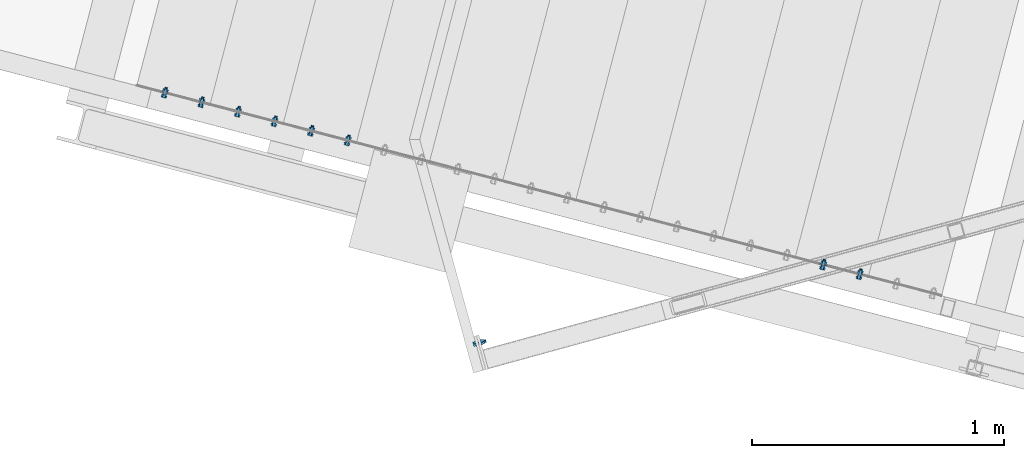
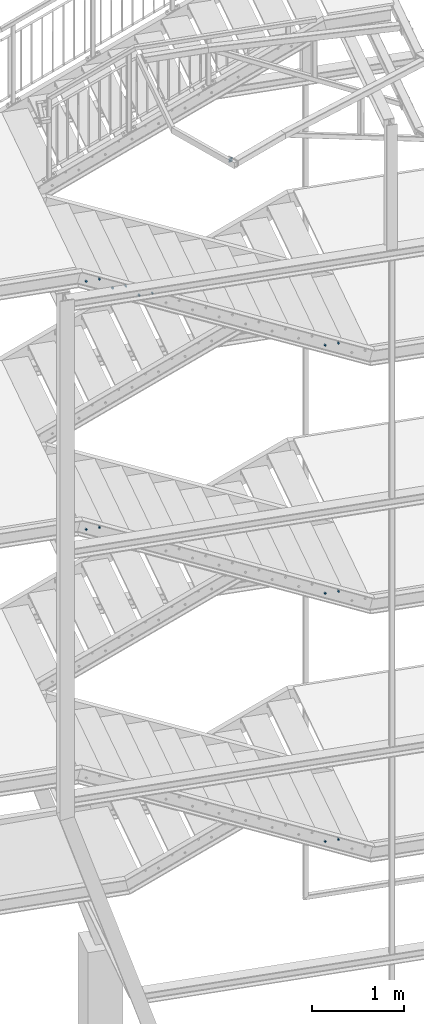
# One storey, part 134 of 169: 15 mechanical fasteners, 8 elements without a shape of their own.
"""IFC2X3 building model written with IfcOpenShell, lengths in millimetres."""

from ifc_helpers import new_model, si_unit, frame, frame_2d, origin_with_axes, origin_2d_with_axis, place, context, subcontext, project, spatial, polyline, circle_curve, parameter, trimmed, segment, composite_curve, circle, outline, extrude, source, transform, mapped, material, type_object, element, aggregate, save


model = new_model("IFC2X3")

# Units and contexts
model_context = context("Model", 3, precision=1e-05, world=origin_with_axes())
body_context = subcontext(model_context, "Body", "Model", "MODEL_VIEW")
ifc_project = project(units=[si_unit("LENGTHUNIT", "METRE", prefix="MILLI"), si_unit("AREAUNIT", "SQUARE_METRE"), si_unit("VOLUMEUNIT", "CUBIC_METRE"), si_unit("MASSUNIT", "GRAM", prefix="KILO"), si_unit("TIMEUNIT", "SECOND"), si_unit("PLANEANGLEUNIT", "RADIAN"), si_unit("SOLIDANGLEUNIT", "STERADIAN"), si_unit("THERMODYNAMICTEMPERATUREUNIT", "DEGREE_CELSIUS"), si_unit("LUMINOUSINTENSITYUNIT", "LUMEN")], contexts=[model_context])

# Site, building, storey
site_placement = place(None, origin_with_axes())
site = spatial("IfcSite", under=ifc_project, at=site_placement, Name="Undefined", CompositionType="ELEMENT")
building_placement = place(site_placement, origin_with_axes())
building = spatial("IfcBuilding", under=site, at=building_placement, Name="Undefined", CompositionType="ELEMENT")
storey_placement = place(building_placement, origin_with_axes())
storey = spatial("IfcBuildingStorey", under=building, at=storey_placement, Name="Undefined", CompositionType="ELEMENT", Elevation=0.0)

# Assembly, mechanical fastener
assembly_1_placement = place(storey_placement, origin_with_axes())
assembly_1 = element("IfcElementAssembly", 1, at=assembly_1_placement, inside=storey, Name="Steel Assembly", AssemblyPlace="NOTDEFINED", PredefinedType="RIGID_FRAME")
ifc_material = material(Name="Undefined")
discrete_accessory_type = type_object("IfcDiscreteAccessoryType", Name="Bolt assembly")
shared_shape_1 = source(origin_with_axes(), body_context, "Body", "SweptSolid", [
    extrude(circle(Radius=7.5, at=origin_2d_with_axis()), frame((0.0, -10.3999999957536, 0.0), z_axis=(0.0, 1.0, 0.0), x_axis=(1.0, 0.0, 0.0)), (0.0, 0.0, 1.0), 10.0),
    extrude(outline(composite_curve([segment(polyline([(7.5, 7.5), (7.5, -7.5)]), True, "CONTINUOUS"), segment(trimmed(circle_curve(frame_2d((0.0, -7.5), x_axis=(1.0, 0.0)), 7.5), [parameter(0.0)], [parameter(3.14159265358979)], False, "PARAMETER"), True, "CONTINUOUS"), segment(polyline([(-7.5, -7.5), (-7.5, 7.5)]), True, "CONTINUOUS"), segment(trimmed(circle_curve(frame_2d((0.0, 7.5), x_axis=(-1.0, 0.0)), 7.5), [parameter(0.0)], [parameter(3.14159265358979)], False, "PARAMETER"), True, "DISCONTINUOUS")], self_intersect=False)), frame((0.0, 0.400000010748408, 0.0), z_axis=(0.0, 1.0, 0.0), x_axis=(1.0, 0.0, 0.0)), (0.0, 0.0, 1.0), 10.1),
    extrude(outline(polyline([(10.39230484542, 0.0), (5.19615242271, 9.00000000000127), (-5.19615242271, 9.00000000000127), (-10.39230484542, 0.0), (-5.19615242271, -9.00000000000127), (5.19615242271, -9.00000000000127), (10.39230484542, 0.0)])), frame((0.0, -20.9999999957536, 0.0), z_axis=(0.0, 1.0, 0.0), x_axis=(1.0, 0.0, 0.0)), (0.0, 0.0, 1.0), 7.5),
    extrude(circle(Radius=6.0, at=origin_2d_with_axis()), frame((0.0, -13.4999999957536, 0.0), z_axis=(0.0, 1.0, 0.0), x_axis=(1.0, 0.0, 0.0)), (0.0, 0.0, 1.0), 45.0),
    extrude(circle(Radius=12.0, at=origin_2d_with_axis()), frame((0.0, -13.4999999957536, 0.0), z_axis=(0.0, 1.0, 0.0), x_axis=(1.0, 0.0, 0.0)), (0.0, 0.0, 1.0), 3.0),
    extrude(circle(Radius=12.0, at=origin_2d_with_axis()), frame((0.0, 10.500000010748, 0.0), z_axis=(0.0, 1.0, 0.0), x_axis=(1.0, 0.0, 0.0)), (0.0, 0.0, 1.0), 3.0),
    extrude(outline(polyline([(10.96965511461, 0.0), (5.484827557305, 9.50000000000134), (-5.484827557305, 9.50000000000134), (-10.96965511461, 0.0), (-5.484827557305, -9.50000000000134), (5.484827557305, -9.50000000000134), (10.96965511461, 0.0)])), frame((0.0, 13.500000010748, 0.0), z_axis=(0.0, 1.0, 0.0), x_axis=(1.0, 0.0, 0.0)), (0.0, 0.0, 1.0), 10.0),
])
mechanical_fastener_1_placement = place(assembly_1_placement, frame((-26962.3013303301, 4725.25174262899, 13989.24466622), z_axis=(0.265007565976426, -0.964246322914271, -0.000136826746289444), x_axis=(1.20319999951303e-05, 0.000145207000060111, -0.999999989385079)))
mechanical_fastener_1 = element("IfcMechanicalFastener", 2, at=mechanical_fastener_1_placement, type_object=discrete_accessory_type, material=ifc_material, Name="Bolt assembly", NominalDiameter=12.0, NominalLength=45.0, context=body_context, shape_type="MappedRepresentation", body=[
    mapped(shared_shape_1, transform((24.999999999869, -2.5465851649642e-11, -69.9999999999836))),
    mapped(shared_shape_1, transform((54.9999999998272, -5.82076609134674e-11, -70.0000000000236))),
])
aggregate(assembly_1, [mechanical_fastener_1])

assembly_2_placement = place(storey_placement, origin_with_axes())
assembly_2 = element("IfcElementAssembly", 3, at=assembly_2_placement, inside=storey, Name="Steel Assembly", AssemblyPlace="NOTDEFINED", PredefinedType="RIGID_FRAME")
shared_shape_2 = source(origin_with_axes(), body_context, "Body", "SweptSolid", [
    extrude(circle(Radius=7.5, at=origin_2d_with_axis()), frame((0.0, -8.39999975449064, 0.0), z_axis=(0.0, 1.0, 0.0), x_axis=(1.0, 0.0, 0.0)), (0.0, 0.0, 1.0), 8.5),
    extrude(circle(Radius=7.5, at=origin_2d_with_axis()), frame((0.0, -0.100000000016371, 0.0), z_axis=(0.0, 1.0, 0.0), x_axis=(1.0, 0.0, 0.0)), (0.0, 0.0, 1.0), 3.1),
    extrude(outline(polyline([(10.39230484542, 0.0), (5.19615242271, 9.00000000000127), (-5.19615242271, 9.00000000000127), (-10.39230484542, 0.0), (-5.19615242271, -9.00000000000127), (5.19615242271, -9.00000000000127), (10.39230484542, 0.0)])), frame((0.0, -18.4999993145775, 0.0), z_axis=(0.0, 1.0, 0.0), x_axis=(1.0, 0.0, 0.0)), (0.0, 0.0, 1.0), 7.5),
    extrude(circle(Radius=6.0, at=origin_2d_with_axis()), frame((0.0, -10.9999999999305, 0.0), z_axis=(0.0, 1.0, 0.0), x_axis=(1.0, 0.0, 0.0)), (0.0, 0.0, 1.0), 35.0),
    extrude(circle(Radius=12.0, at=origin_2d_with_axis()), frame((0.0, -10.9999999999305, 0.0), z_axis=(0.0, 1.0, 0.0), x_axis=(1.0, 0.0, 0.0)), (0.0, 0.0, 1.0), 2.5),
    extrude(circle(Radius=12.0, at=origin_2d_with_axis()), frame((0.0, 2.99999999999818, 0.0), z_axis=(0.0, 1.0, 0.0), x_axis=(1.0, 0.0, 0.0)), (0.0, 0.0, 1.0), 2.5),
    extrude(outline(polyline([(10.96965511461, 0.0), (5.484827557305, 9.50000000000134), (-5.484827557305, 9.50000000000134), (-10.96965511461, 0.0), (-5.484827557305, -9.50000000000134), (5.484827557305, -9.50000000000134), (10.96965511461, 0.0)])), frame((0.0, 5.50000000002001, 0.0), z_axis=(0.0, 1.0, 0.0), x_axis=(1.0, 0.0, 0.0)), (0.0, 0.0, 1.0), 10.0),
])
mechanical_fastener_2_placement = place(assembly_2_placement, frame((-28046.1007419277, 5737.63385308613, 12200.3215824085), z_axis=(-2.54700353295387e-10, 0.0, -1.0), x_axis=(-0.967546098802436, 0.252694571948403, 0.0)))
mechanical_fastener_2 = element("IfcMechanicalFastener", 4, at=mechanical_fastener_2_placement, type_object=discrete_accessory_type, material=ifc_material, Name="Bolt assembly", NominalDiameter=12.0, NominalLength=35.0, context=body_context, shape_type="MappedRepresentation", body=[
    mapped(shared_shape_2, transform((35.0000000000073, -1.23691279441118e-10, 25.0))),
])

assembly_3_placement = place(storey_placement, origin_with_axes())
assembly_3 = element("IfcElementAssembly", 5, at=assembly_3_placement, inside=storey, Name="Steel Assembly", AssemblyPlace="NOTDEFINED", PredefinedType="RIGID_FRAME")
mechanical_fastener_3_placement = place(assembly_3_placement, frame((-27755.8369088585, 5661.82548073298, 12050.3215824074), z_axis=(-2.54700353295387e-10, 0.0, -1.0), x_axis=(-0.967546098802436, 0.252694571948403, 0.0)))
mechanical_fastener_3 = element("IfcMechanicalFastener", 6, at=mechanical_fastener_3_placement, type_object=discrete_accessory_type, material=ifc_material, Name="Bolt assembly", NominalDiameter=12.0, NominalLength=35.0, context=body_context, shape_type="MappedRepresentation", body=[
    mapped(shared_shape_2, transform((35.0000000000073, -1.23691279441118e-10, 25.0))),
])

assembly_4_placement = place(storey_placement, origin_with_axes())
assembly_4 = element("IfcElementAssembly", 7, at=assembly_4_placement, inside=storey, Name="Steel Assembly", AssemblyPlace="NOTDEFINED", PredefinedType="RIGID_FRAME")
mechanical_fastener_4_placement = place(assembly_4_placement, frame((-27465.5730757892, 5586.01710837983, 11900.3215824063), z_axis=(-2.54700353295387e-10, 0.0, -1.0), x_axis=(-0.967546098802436, 0.252694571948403, 0.0)))
mechanical_fastener_4 = element("IfcMechanicalFastener", 8, at=mechanical_fastener_4_placement, type_object=discrete_accessory_type, material=ifc_material, Name="Bolt assembly", NominalDiameter=12.0, NominalLength=35.0, context=body_context, shape_type="MappedRepresentation", body=[
    mapped(shared_shape_2, transform((35.0000000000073, -1.23691279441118e-10, 25.0))),
])

assembly_5_placement = place(storey_placement, origin_with_axes())
assembly_5 = element("IfcElementAssembly", 9, at=assembly_5_placement, inside=storey, Name="Steel Assembly", AssemblyPlace="NOTDEFINED", PredefinedType="RIGID_FRAME")
mechanical_fastener_5_placement = place(assembly_5_placement, frame((-25433.7262443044, 5055.3585019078, 10850.3215823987), z_axis=(-2.54700353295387e-10, 0.0, -1.0), x_axis=(-0.967546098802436, 0.252694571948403, 0.0)))
mechanical_fastener_5 = element("IfcMechanicalFastener", 10, at=mechanical_fastener_5_placement, type_object=discrete_accessory_type, material=ifc_material, Name="Bolt assembly", NominalDiameter=12.0, NominalLength=35.0, context=body_context, shape_type="MappedRepresentation", body=[
    mapped(shared_shape_2, transform((35.0000000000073, -1.23691279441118e-10, 25.0))),
])

assembly_6_placement = place(storey_placement, origin_with_axes())
assembly_6 = element("IfcElementAssembly", 11, at=assembly_6_placement, inside=storey, Name="Steel Assembly", AssemblyPlace="NOTDEFINED", PredefinedType="RIGID_FRAME")
mechanical_fastener_6_placement = place(assembly_6_placement, frame((-28046.2148193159, 5737.19693810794, 8900.3216133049), z_axis=(-2.54700353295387e-10, 0.0, -1.0), x_axis=(-0.967546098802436, 0.252694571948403, 0.0)))
mechanical_fastener_6 = element("IfcMechanicalFastener", 12, at=mechanical_fastener_6_placement, type_object=discrete_accessory_type, material=ifc_material, Name="Bolt assembly", NominalDiameter=12.0, NominalLength=35.0, context=body_context, shape_type="MappedRepresentation", body=[
    mapped(shared_shape_2, transform((35.0000000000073, -1.23691279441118e-10, 25.0))),
])

assembly_7_placement = place(storey_placement, origin_with_axes())
assembly_7 = element("IfcElementAssembly", 13, at=assembly_7_placement, inside=storey, Name="Steel Assembly", AssemblyPlace="NOTDEFINED", PredefinedType="RIGID_FRAME")
mechanical_fastener_7_placement = place(assembly_7_placement, frame((-25433.8403216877, 5054.92158693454, 7550.32161330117), z_axis=(-2.54700353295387e-10, 0.0, -1.0), x_axis=(-0.967546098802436, 0.252694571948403, 0.0)))
mechanical_fastener_7 = element("IfcMechanicalFastener", 14, at=mechanical_fastener_7_placement, type_object=discrete_accessory_type, material=ifc_material, Name="Bolt assembly", NominalDiameter=12.0, NominalLength=35.0, context=body_context, shape_type="MappedRepresentation", body=[
    mapped(shared_shape_2, transform((35.0000000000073, -1.23691279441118e-10, 25.0))),
])

assembly_8_placement = place(storey_placement, origin_with_axes())
assembly_8 = element("IfcElementAssembly", 15, at=assembly_8_placement, inside=storey, Name="Steel Assembly", AssemblyPlace="NOTDEFINED", PredefinedType="RIGID_FRAME")
mechanical_fastener_8_placement = place(assembly_8_placement, frame((-25433.9543991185, 5054.48467201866, 4250.32164420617), z_axis=(-2.54700353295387e-10, 0.0, -1.0), x_axis=(-0.967546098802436, 0.252694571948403, 0.0)))
mechanical_fastener_8 = element("IfcMechanicalFastener", 16, at=mechanical_fastener_8_placement, type_object=discrete_accessory_type, material=ifc_material, Name="Bolt assembly", NominalDiameter=12.0, NominalLength=35.0, context=body_context, shape_type="MappedRepresentation", body=[
    mapped(shared_shape_2, transform((35.0000000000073, -1.23691279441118e-10, 25.0))),
])

# Mechanical fastener
shared_shape_3 = source(origin_with_axes(), body_context, "Body", "SweptSolid", [
    extrude(circle(Radius=7.5, at=origin_2d_with_axis()), frame((0.0, -8.39999975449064, 0.0), z_axis=(0.0, 1.0, 0.0), x_axis=(1.0, 0.0, 0.0)), (0.0, 0.0, 1.0), 8.5),
    extrude(outline(composite_curve([segment(polyline([(-10.0, 7.5), (10.0, 7.5)]), True, "CONTINUOUS"), segment(trimmed(circle_curve(frame_2d((10.0, 0.0), x_axis=(0.0, 1.0)), 7.5), [parameter(0.0)], [parameter(3.14159265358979)], False, "PARAMETER"), True, "CONTINUOUS"), segment(polyline([(10.0, -7.5), (-10.0, -7.5)]), True, "CONTINUOUS"), segment(trimmed(circle_curve(frame_2d((-10.0, 0.0), x_axis=(0.0, -1.0)), 7.5), [parameter(0.0)], [parameter(3.14159265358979)], False, "PARAMETER"), True, "DISCONTINUOUS")], self_intersect=False)), frame((0.0, -0.100000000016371, 0.0), z_axis=(0.0, 1.0, 0.0), x_axis=(1.0, 0.0, 0.0)), (0.0, 0.0, 1.0), 3.1),
    extrude(outline(polyline([(10.39230484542, 0.0), (5.19615242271, 9.00000000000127), (-5.19615242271, 9.00000000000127), (-10.39230484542, 0.0), (-5.19615242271, -9.00000000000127), (5.19615242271, -9.00000000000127), (10.39230484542, 0.0)])), frame((0.0, -18.4999993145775, 0.0), z_axis=(0.0, 1.0, 0.0), x_axis=(1.0, 0.0, 0.0)), (0.0, 0.0, 1.0), 7.5),
    extrude(circle(Radius=6.0, at=origin_2d_with_axis()), frame((0.0, -10.9999999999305, 0.0), z_axis=(0.0, 1.0, 0.0), x_axis=(1.0, 0.0, 0.0)), (0.0, 0.0, 1.0), 35.0),
    extrude(circle(Radius=12.0, at=origin_2d_with_axis()), frame((0.0, -10.9999999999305, 0.0), z_axis=(0.0, 1.0, 0.0), x_axis=(1.0, 0.0, 0.0)), (0.0, 0.0, 1.0), 2.5),
    extrude(circle(Radius=12.0, at=origin_2d_with_axis()), frame((0.0, 2.99999999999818, 0.0), z_axis=(0.0, 1.0, 0.0), x_axis=(1.0, 0.0, 0.0)), (0.0, 0.0, 1.0), 2.5),
    extrude(outline(polyline([(10.96965511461, 0.0), (5.484827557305, 9.50000000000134), (-5.484827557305, 9.50000000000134), (-10.96965511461, 0.0), (-5.484827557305, -9.50000000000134), (5.484827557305, -9.50000000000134), (10.96965511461, 0.0)])), frame((0.0, 5.50000000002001, 0.0), z_axis=(0.0, 1.0, 0.0), x_axis=(1.0, 0.0, 0.0)), (0.0, 0.0, 1.0), 10.0),
])
mechanical_fastener_9_placement = place(assembly_2_placement, frame((-28046.1007419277, 5737.63385308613, 12200.3215824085), z_axis=(-2.54700353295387e-10, 0.0, -1.0), x_axis=(-0.967546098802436, 0.252694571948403, 0.0)))
mechanical_fastener_9 = element("IfcMechanicalFastener", 17, at=mechanical_fastener_9_placement, type_object=discrete_accessory_type, material=ifc_material, Name="Bolt assembly", NominalDiameter=12.0, NominalLength=35.0, context=body_context, shape_type="MappedRepresentation", body=[
    mapped(shared_shape_3, transform((185.00000000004, -6.51198206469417e-10, 25.0))),
])

aggregate(assembly_2, [mechanical_fastener_9, mechanical_fastener_2])

shared_shape_4 = source(origin_with_axes(), body_context, "Body", "SweptSolid", [
    extrude(circle(Radius=7.5, at=origin_2d_with_axis()), frame((0.0, -8.39999975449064, 0.0), z_axis=(0.0, 1.0, 0.0), x_axis=(1.0, 0.0, 0.0)), (0.0, 0.0, 1.0), 8.5),
    extrude(outline(composite_curve([segment(polyline([(-10.0, 7.5), (10.0, 7.5)]), True, "CONTINUOUS"), segment(trimmed(circle_curve(frame_2d((10.0, 0.0), x_axis=(0.0, 1.0)), 7.5), [parameter(0.0)], [parameter(3.14159265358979)], False, "PARAMETER"), True, "CONTINUOUS"), segment(polyline([(10.0, -7.5), (-10.0, -7.5)]), True, "CONTINUOUS"), segment(trimmed(circle_curve(frame_2d((-10.0, 0.0), x_axis=(0.0, -1.0)), 7.5), [parameter(0.0)], [parameter(3.14159265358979)], False, "PARAMETER"), True, "DISCONTINUOUS")], self_intersect=False)), frame((0.0, -0.100000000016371, 0.0), z_axis=(0.0, 1.0, 0.0), x_axis=(1.0, 0.0, 0.0)), (0.0, 0.0, 1.0), 3.1),
    extrude(outline(polyline([(10.39230484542, 0.0), (5.19615242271, 9.00000000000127), (-5.19615242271, 9.00000000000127), (-10.39230484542, 0.0), (-5.19615242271, -9.00000000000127), (5.19615242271, -9.00000000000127), (10.39230484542, 0.0)])), frame((0.0, -18.4999993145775, 0.0), z_axis=(0.0, 1.0, 0.0), x_axis=(1.0, 0.0, 0.0)), (0.0, 0.0, 1.0), 7.5),
    extrude(circle(Radius=6.0, at=origin_2d_with_axis()), frame((0.0, -10.9999999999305, 0.0), z_axis=(0.0, 1.0, 0.0), x_axis=(1.0, 0.0, 0.0)), (0.0, 0.0, 1.0), 35.0),
    extrude(circle(Radius=12.0, at=origin_2d_with_axis()), frame((0.0, -10.9999999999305, 0.0), z_axis=(0.0, 1.0, 0.0), x_axis=(1.0, 0.0, 0.0)), (0.0, 0.0, 1.0), 2.5),
    extrude(circle(Radius=12.0, at=origin_2d_with_axis()), frame((0.0, 2.99999999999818, 0.0), z_axis=(0.0, 1.0, 0.0), x_axis=(1.0, 0.0, 0.0)), (0.0, 0.0, 1.0), 2.5),
    extrude(outline(polyline([(10.96965511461, 0.0), (5.484827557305, 9.50000000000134), (-5.484827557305, 9.50000000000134), (-10.96965511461, 0.0), (-5.484827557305, -9.50000000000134), (5.484827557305, -9.50000000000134), (10.96965511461, 0.0)])), frame((0.0, 5.50000000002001, 0.0), z_axis=(0.0, 1.0, 0.0), x_axis=(1.0, 0.0, 0.0)), (0.0, 0.0, 1.0), 10.0),
])
mechanical_fastener_10_placement = place(assembly_3_placement, frame((-27755.8369088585, 5661.82548073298, 12050.3215824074), z_axis=(-2.54700353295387e-10, 0.0, -1.0), x_axis=(-0.967546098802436, 0.252694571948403, 0.0)))
mechanical_fastener_10 = element("IfcMechanicalFastener", 18, at=mechanical_fastener_10_placement, type_object=discrete_accessory_type, material=ifc_material, Name="Bolt assembly", NominalDiameter=12.0, NominalLength=35.0, context=body_context, shape_type="MappedRepresentation", body=[
    mapped(shared_shape_4, transform((185.00000000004, -6.51198206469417e-10, 25.0))),
])

aggregate(assembly_3, [mechanical_fastener_10, mechanical_fastener_3])

shared_shape_5 = source(origin_with_axes(), body_context, "Body", "SweptSolid", [
    extrude(circle(Radius=7.5, at=origin_2d_with_axis()), frame((0.0, -8.39999975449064, 0.0), z_axis=(0.0, 1.0, 0.0), x_axis=(1.0, 0.0, 0.0)), (0.0, 0.0, 1.0), 8.5),
    extrude(outline(composite_curve([segment(polyline([(-10.0, 7.5), (10.0, 7.5)]), True, "CONTINUOUS"), segment(trimmed(circle_curve(frame_2d((10.0, 0.0), x_axis=(0.0, 1.0)), 7.5), [parameter(0.0)], [parameter(3.14159265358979)], False, "PARAMETER"), True, "CONTINUOUS"), segment(polyline([(10.0, -7.5), (-10.0, -7.5)]), True, "CONTINUOUS"), segment(trimmed(circle_curve(frame_2d((-10.0, 0.0), x_axis=(0.0, -1.0)), 7.5), [parameter(0.0)], [parameter(3.14159265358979)], False, "PARAMETER"), True, "DISCONTINUOUS")], self_intersect=False)), frame((0.0, -0.100000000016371, 0.0), z_axis=(0.0, 1.0, 0.0), x_axis=(1.0, 0.0, 0.0)), (0.0, 0.0, 1.0), 3.1),
    extrude(outline(polyline([(10.39230484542, 0.0), (5.19615242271, 9.00000000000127), (-5.19615242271, 9.00000000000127), (-10.39230484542, 0.0), (-5.19615242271, -9.00000000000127), (5.19615242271, -9.00000000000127), (10.39230484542, 0.0)])), frame((0.0, -18.4999993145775, 0.0), z_axis=(0.0, 1.0, 0.0), x_axis=(1.0, 0.0, 0.0)), (0.0, 0.0, 1.0), 7.5),
    extrude(circle(Radius=6.0, at=origin_2d_with_axis()), frame((0.0, -10.9999999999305, 0.0), z_axis=(0.0, 1.0, 0.0), x_axis=(1.0, 0.0, 0.0)), (0.0, 0.0, 1.0), 35.0),
    extrude(circle(Radius=12.0, at=origin_2d_with_axis()), frame((0.0, -10.9999999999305, 0.0), z_axis=(0.0, 1.0, 0.0), x_axis=(1.0, 0.0, 0.0)), (0.0, 0.0, 1.0), 2.5),
    extrude(circle(Radius=12.0, at=origin_2d_with_axis()), frame((0.0, 2.99999999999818, 0.0), z_axis=(0.0, 1.0, 0.0), x_axis=(1.0, 0.0, 0.0)), (0.0, 0.0, 1.0), 2.5),
    extrude(outline(polyline([(10.96965511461, 0.0), (5.484827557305, 9.50000000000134), (-5.484827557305, 9.50000000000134), (-10.96965511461, 0.0), (-5.484827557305, -9.50000000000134), (5.484827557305, -9.50000000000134), (10.96965511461, 0.0)])), frame((0.0, 5.50000000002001, 0.0), z_axis=(0.0, 1.0, 0.0), x_axis=(1.0, 0.0, 0.0)), (0.0, 0.0, 1.0), 10.0),
])
mechanical_fastener_11_placement = place(assembly_4_placement, frame((-27465.5730757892, 5586.01710837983, 11900.3215824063), z_axis=(-2.54700353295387e-10, 0.0, -1.0), x_axis=(-0.967546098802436, 0.252694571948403, 0.0)))
mechanical_fastener_11 = element("IfcMechanicalFastener", 19, at=mechanical_fastener_11_placement, type_object=discrete_accessory_type, material=ifc_material, Name="Bolt assembly", NominalDiameter=12.0, NominalLength=35.0, context=body_context, shape_type="MappedRepresentation", body=[
    mapped(shared_shape_5, transform((185.00000000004, -6.51198206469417e-10, 25.0))),
])

aggregate(assembly_4, [mechanical_fastener_11, mechanical_fastener_4])

shared_shape_6 = source(origin_with_axes(), body_context, "Body", "SweptSolid", [
    extrude(circle(Radius=7.5, at=origin_2d_with_axis()), frame((0.0, -8.39999975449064, 0.0), z_axis=(0.0, 1.0, 0.0), x_axis=(1.0, 0.0, 0.0)), (0.0, 0.0, 1.0), 8.5),
    extrude(outline(composite_curve([segment(polyline([(-10.0, 7.5), (10.0, 7.5)]), True, "CONTINUOUS"), segment(trimmed(circle_curve(frame_2d((10.0, 0.0), x_axis=(0.0, 1.0)), 7.5), [parameter(0.0)], [parameter(3.14159265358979)], False, "PARAMETER"), True, "CONTINUOUS"), segment(polyline([(10.0, -7.5), (-10.0, -7.5)]), True, "CONTINUOUS"), segment(trimmed(circle_curve(frame_2d((-10.0, 0.0), x_axis=(0.0, -1.0)), 7.5), [parameter(0.0)], [parameter(3.14159265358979)], False, "PARAMETER"), True, "DISCONTINUOUS")], self_intersect=False)), frame((0.0, -0.100000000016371, 0.0), z_axis=(0.0, 1.0, 0.0), x_axis=(1.0, 0.0, 0.0)), (0.0, 0.0, 1.0), 3.1),
    extrude(outline(polyline([(10.39230484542, 0.0), (5.19615242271, 9.00000000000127), (-5.19615242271, 9.00000000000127), (-10.39230484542, 0.0), (-5.19615242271, -9.00000000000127), (5.19615242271, -9.00000000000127), (10.39230484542, 0.0)])), frame((0.0, -18.4999993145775, 0.0), z_axis=(0.0, 1.0, 0.0), x_axis=(1.0, 0.0, 0.0)), (0.0, 0.0, 1.0), 7.5),
    extrude(circle(Radius=6.0, at=origin_2d_with_axis()), frame((0.0, -10.9999999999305, 0.0), z_axis=(0.0, 1.0, 0.0), x_axis=(1.0, 0.0, 0.0)), (0.0, 0.0, 1.0), 35.0),
    extrude(circle(Radius=12.0, at=origin_2d_with_axis()), frame((0.0, -10.9999999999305, 0.0), z_axis=(0.0, 1.0, 0.0), x_axis=(1.0, 0.0, 0.0)), (0.0, 0.0, 1.0), 2.5),
    extrude(circle(Radius=12.0, at=origin_2d_with_axis()), frame((0.0, 2.99999999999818, 0.0), z_axis=(0.0, 1.0, 0.0), x_axis=(1.0, 0.0, 0.0)), (0.0, 0.0, 1.0), 2.5),
    extrude(outline(polyline([(10.96965511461, 0.0), (5.484827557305, 9.50000000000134), (-5.484827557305, 9.50000000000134), (-10.96965511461, 0.0), (-5.484827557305, -9.50000000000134), (5.484827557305, -9.50000000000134), (10.96965511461, 0.0)])), frame((0.0, 5.50000000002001, 0.0), z_axis=(0.0, 1.0, 0.0), x_axis=(1.0, 0.0, 0.0)), (0.0, 0.0, 1.0), 10.0),
])
mechanical_fastener_12_placement = place(assembly_5_placement, frame((-25433.7262443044, 5055.3585019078, 10850.3215823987), z_axis=(-2.54700353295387e-10, 0.0, -1.0), x_axis=(-0.967546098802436, 0.252694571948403, 0.0)))
mechanical_fastener_12 = element("IfcMechanicalFastener", 20, at=mechanical_fastener_12_placement, type_object=discrete_accessory_type, material=ifc_material, Name="Bolt assembly", NominalDiameter=12.0, NominalLength=35.0, context=body_context, shape_type="MappedRepresentation", body=[
    mapped(shared_shape_6, transform((185.00000000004, -6.51198206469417e-10, 25.0))),
])

aggregate(assembly_5, [mechanical_fastener_12, mechanical_fastener_5])

shared_shape_7 = source(origin_with_axes(), body_context, "Body", "SweptSolid", [
    extrude(circle(Radius=7.5, at=origin_2d_with_axis()), frame((0.0, -8.39999975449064, 0.0), z_axis=(0.0, 1.0, 0.0), x_axis=(1.0, 0.0, 0.0)), (0.0, 0.0, 1.0), 8.5),
    extrude(outline(composite_curve([segment(polyline([(-10.0, 7.5), (10.0, 7.5)]), True, "CONTINUOUS"), segment(trimmed(circle_curve(frame_2d((10.0, 0.0), x_axis=(0.0, 1.0)), 7.5), [parameter(0.0)], [parameter(3.14159265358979)], False, "PARAMETER"), True, "CONTINUOUS"), segment(polyline([(10.0, -7.5), (-10.0, -7.5)]), True, "CONTINUOUS"), segment(trimmed(circle_curve(frame_2d((-10.0, 0.0), x_axis=(0.0, -1.0)), 7.5), [parameter(0.0)], [parameter(3.14159265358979)], False, "PARAMETER"), True, "DISCONTINUOUS")], self_intersect=False)), frame((0.0, -0.100000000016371, 0.0), z_axis=(0.0, 1.0, 0.0), x_axis=(1.0, 0.0, 0.0)), (0.0, 0.0, 1.0), 3.1),
    extrude(outline(polyline([(10.39230484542, 0.0), (5.19615242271, 9.00000000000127), (-5.19615242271, 9.00000000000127), (-10.39230484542, 0.0), (-5.19615242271, -9.00000000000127), (5.19615242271, -9.00000000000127), (10.39230484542, 0.0)])), frame((0.0, -18.4999993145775, 0.0), z_axis=(0.0, 1.0, 0.0), x_axis=(1.0, 0.0, 0.0)), (0.0, 0.0, 1.0), 7.5),
    extrude(circle(Radius=6.0, at=origin_2d_with_axis()), frame((0.0, -10.9999999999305, 0.0), z_axis=(0.0, 1.0, 0.0), x_axis=(1.0, 0.0, 0.0)), (0.0, 0.0, 1.0), 35.0),
    extrude(circle(Radius=12.0, at=origin_2d_with_axis()), frame((0.0, -10.9999999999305, 0.0), z_axis=(0.0, 1.0, 0.0), x_axis=(1.0, 0.0, 0.0)), (0.0, 0.0, 1.0), 2.5),
    extrude(circle(Radius=12.0, at=origin_2d_with_axis()), frame((0.0, 2.99999999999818, 0.0), z_axis=(0.0, 1.0, 0.0), x_axis=(1.0, 0.0, 0.0)), (0.0, 0.0, 1.0), 2.5),
    extrude(outline(polyline([(10.96965511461, 0.0), (5.484827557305, 9.50000000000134), (-5.484827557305, 9.50000000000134), (-10.96965511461, 0.0), (-5.484827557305, -9.50000000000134), (5.484827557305, -9.50000000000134), (10.96965511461, 0.0)])), frame((0.0, 5.50000000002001, 0.0), z_axis=(0.0, 1.0, 0.0), x_axis=(1.0, 0.0, 0.0)), (0.0, 0.0, 1.0), 10.0),
])
mechanical_fastener_13_placement = place(assembly_6_placement, frame((-28046.2148193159, 5737.19693810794, 8900.3216133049), z_axis=(-2.54700353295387e-10, 0.0, -1.0), x_axis=(-0.967546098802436, 0.252694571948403, 0.0)))
mechanical_fastener_13 = element("IfcMechanicalFastener", 21, at=mechanical_fastener_13_placement, type_object=discrete_accessory_type, material=ifc_material, Name="Bolt assembly", NominalDiameter=12.0, NominalLength=35.0, context=body_context, shape_type="MappedRepresentation", body=[
    mapped(shared_shape_7, transform((185.00000000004, -6.51198206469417e-10, 25.0))),
])

aggregate(assembly_6, [mechanical_fastener_13, mechanical_fastener_6])

shared_shape_8 = source(origin_with_axes(), body_context, "Body", "SweptSolid", [
    extrude(circle(Radius=7.5, at=origin_2d_with_axis()), frame((0.0, -8.39999975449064, 0.0), z_axis=(0.0, 1.0, 0.0), x_axis=(1.0, 0.0, 0.0)), (0.0, 0.0, 1.0), 8.5),
    extrude(outline(composite_curve([segment(polyline([(-10.0, 7.5), (10.0, 7.5)]), True, "CONTINUOUS"), segment(trimmed(circle_curve(frame_2d((10.0, 0.0), x_axis=(0.0, 1.0)), 7.5), [parameter(0.0)], [parameter(3.14159265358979)], False, "PARAMETER"), True, "CONTINUOUS"), segment(polyline([(10.0, -7.5), (-10.0, -7.5)]), True, "CONTINUOUS"), segment(trimmed(circle_curve(frame_2d((-10.0, 0.0), x_axis=(0.0, -1.0)), 7.5), [parameter(0.0)], [parameter(3.14159265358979)], False, "PARAMETER"), True, "DISCONTINUOUS")], self_intersect=False)), frame((0.0, -0.100000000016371, 0.0), z_axis=(0.0, 1.0, 0.0), x_axis=(1.0, 0.0, 0.0)), (0.0, 0.0, 1.0), 3.1),
    extrude(outline(polyline([(10.39230484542, 0.0), (5.19615242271, 9.00000000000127), (-5.19615242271, 9.00000000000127), (-10.39230484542, 0.0), (-5.19615242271, -9.00000000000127), (5.19615242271, -9.00000000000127), (10.39230484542, 0.0)])), frame((0.0, -18.4999993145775, 0.0), z_axis=(0.0, 1.0, 0.0), x_axis=(1.0, 0.0, 0.0)), (0.0, 0.0, 1.0), 7.5),
    extrude(circle(Radius=6.0, at=origin_2d_with_axis()), frame((0.0, -10.9999999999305, 0.0), z_axis=(0.0, 1.0, 0.0), x_axis=(1.0, 0.0, 0.0)), (0.0, 0.0, 1.0), 35.0),
    extrude(circle(Radius=12.0, at=origin_2d_with_axis()), frame((0.0, -10.9999999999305, 0.0), z_axis=(0.0, 1.0, 0.0), x_axis=(1.0, 0.0, 0.0)), (0.0, 0.0, 1.0), 2.5),
    extrude(circle(Radius=12.0, at=origin_2d_with_axis()), frame((0.0, 2.99999999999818, 0.0), z_axis=(0.0, 1.0, 0.0), x_axis=(1.0, 0.0, 0.0)), (0.0, 0.0, 1.0), 2.5),
    extrude(outline(polyline([(10.96965511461, 0.0), (5.484827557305, 9.50000000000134), (-5.484827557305, 9.50000000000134), (-10.96965511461, 0.0), (-5.484827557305, -9.50000000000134), (5.484827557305, -9.50000000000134), (10.96965511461, 0.0)])), frame((0.0, 5.50000000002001, 0.0), z_axis=(0.0, 1.0, 0.0), x_axis=(1.0, 0.0, 0.0)), (0.0, 0.0, 1.0), 10.0),
])
mechanical_fastener_14_placement = place(assembly_7_placement, frame((-25433.8403216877, 5054.92158693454, 7550.32161330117), z_axis=(-2.54700353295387e-10, 0.0, -1.0), x_axis=(-0.967546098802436, 0.252694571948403, 0.0)))
mechanical_fastener_14 = element("IfcMechanicalFastener", 22, at=mechanical_fastener_14_placement, type_object=discrete_accessory_type, material=ifc_material, Name="Bolt assembly", NominalDiameter=12.0, NominalLength=35.0, context=body_context, shape_type="MappedRepresentation", body=[
    mapped(shared_shape_8, transform((185.00000000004, -6.51198206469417e-10, 25.0))),
])

aggregate(assembly_7, [mechanical_fastener_14, mechanical_fastener_7])

shared_shape_9 = source(origin_with_axes(), body_context, "Body", "SweptSolid", [
    extrude(circle(Radius=7.5, at=origin_2d_with_axis()), frame((0.0, -8.39999975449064, 0.0), z_axis=(0.0, 1.0, 0.0), x_axis=(1.0, 0.0, 0.0)), (0.0, 0.0, 1.0), 8.5),
    extrude(outline(composite_curve([segment(polyline([(-10.0, 7.5), (10.0, 7.5)]), True, "CONTINUOUS"), segment(trimmed(circle_curve(frame_2d((10.0, 0.0), x_axis=(0.0, 1.0)), 7.5), [parameter(0.0)], [parameter(3.14159265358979)], False, "PARAMETER"), True, "CONTINUOUS"), segment(polyline([(10.0, -7.5), (-10.0, -7.5)]), True, "CONTINUOUS"), segment(trimmed(circle_curve(frame_2d((-10.0, 0.0), x_axis=(0.0, -1.0)), 7.5), [parameter(0.0)], [parameter(3.14159265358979)], False, "PARAMETER"), True, "DISCONTINUOUS")], self_intersect=False)), frame((0.0, -0.100000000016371, 0.0), z_axis=(0.0, 1.0, 0.0), x_axis=(1.0, 0.0, 0.0)), (0.0, 0.0, 1.0), 3.1),
    extrude(outline(polyline([(10.39230484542, 0.0), (5.19615242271, 9.00000000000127), (-5.19615242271, 9.00000000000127), (-10.39230484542, 0.0), (-5.19615242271, -9.00000000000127), (5.19615242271, -9.00000000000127), (10.39230484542, 0.0)])), frame((0.0, -18.4999993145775, 0.0), z_axis=(0.0, 1.0, 0.0), x_axis=(1.0, 0.0, 0.0)), (0.0, 0.0, 1.0), 7.5),
    extrude(circle(Radius=6.0, at=origin_2d_with_axis()), frame((0.0, -10.9999999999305, 0.0), z_axis=(0.0, 1.0, 0.0), x_axis=(1.0, 0.0, 0.0)), (0.0, 0.0, 1.0), 35.0),
    extrude(circle(Radius=12.0, at=origin_2d_with_axis()), frame((0.0, -10.9999999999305, 0.0), z_axis=(0.0, 1.0, 0.0), x_axis=(1.0, 0.0, 0.0)), (0.0, 0.0, 1.0), 2.5),
    extrude(circle(Radius=12.0, at=origin_2d_with_axis()), frame((0.0, 2.99999999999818, 0.0), z_axis=(0.0, 1.0, 0.0), x_axis=(1.0, 0.0, 0.0)), (0.0, 0.0, 1.0), 2.5),
    extrude(outline(polyline([(10.96965511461, 0.0), (5.484827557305, 9.50000000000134), (-5.484827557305, 9.50000000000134), (-10.96965511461, 0.0), (-5.484827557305, -9.50000000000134), (5.484827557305, -9.50000000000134), (10.96965511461, 0.0)])), frame((0.0, 5.50000000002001, 0.0), z_axis=(0.0, 1.0, 0.0), x_axis=(1.0, 0.0, 0.0)), (0.0, 0.0, 1.0), 10.0),
])
mechanical_fastener_15_placement = place(assembly_8_placement, frame((-25433.9543991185, 5054.48467201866, 4250.32164420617), z_axis=(-2.54700353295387e-10, 0.0, -1.0), x_axis=(-0.967546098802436, 0.252694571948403, 0.0)))
mechanical_fastener_15 = element("IfcMechanicalFastener", 23, at=mechanical_fastener_15_placement, type_object=discrete_accessory_type, material=ifc_material, Name="Bolt assembly", NominalDiameter=12.0, NominalLength=35.0, context=body_context, shape_type="MappedRepresentation", body=[
    mapped(shared_shape_9, transform((185.00000000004, -6.51198206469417e-10, 25.0))),
])

aggregate(assembly_8, [mechanical_fastener_15, mechanical_fastener_8])

save(model, "model.ifc")
